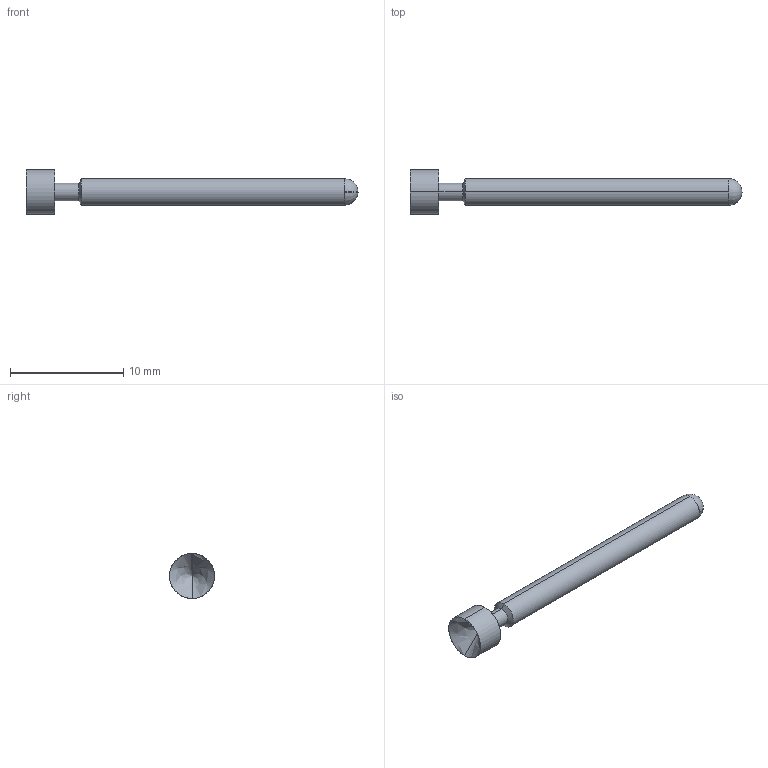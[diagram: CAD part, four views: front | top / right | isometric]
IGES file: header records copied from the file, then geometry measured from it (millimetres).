
Start section: SolidWorks IGES file using analytic representation for surfaces
Global section: file name: Z:\probe solid model mockups\Solidworks models\IGES Files\HCP-14 IGES files\HCP-14A RECD.IGS; native system: SolidWorks 2006 by SolidWorks Corporation; preprocessor: SolidWorks 2006 by SolidWorks Corporation; author: tsakatani; date: 071202.143512; units: inch
Bounding box: 29.29 x 3.96 x 3.96 mm (x, y, z)
Surface area: 253.7 mm2 (no closed solid volume)
Topology: 0 solids, 0 shells, 13 faces, 100 edges, 96 vertices
Faces by surface type: revolution 12, bspline 1
